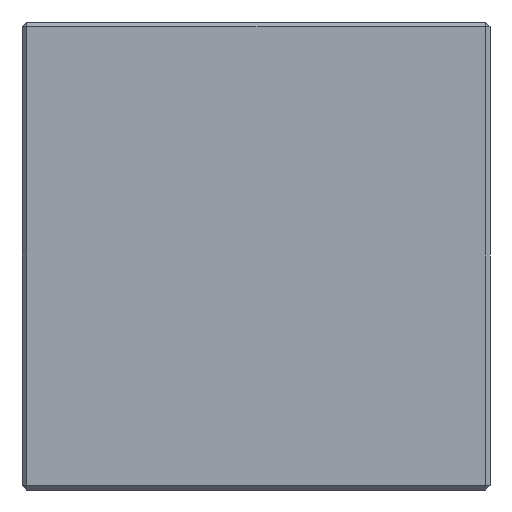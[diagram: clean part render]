
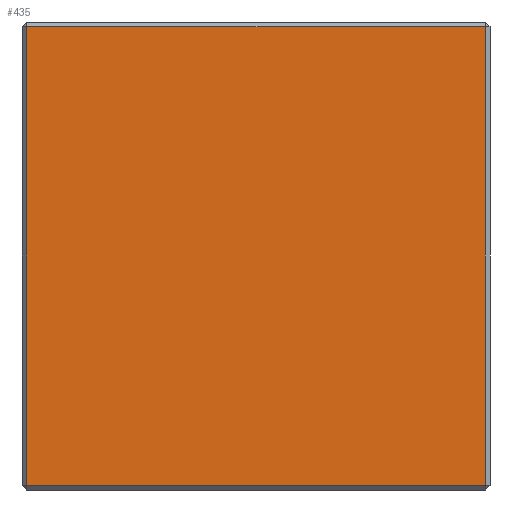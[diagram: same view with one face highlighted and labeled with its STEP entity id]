
A CAD part, left-side view. The second image highlights one B-rep face of the part: STEP entity #435.
In plain terms, the highlighted planar face has unit normal (-1, 0, 0).
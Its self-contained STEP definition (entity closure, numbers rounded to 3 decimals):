
#13 = DIRECTION ( 'NONE',  ( 0., 1., 0. ) ) ;
#25 = LINE ( 'NONE', #309, #36 ) ;
#36 = VECTOR ( 'NONE', #13, 1000. ) ;
#88 = ORIENTED_EDGE ( 'NONE', *, *, #705, .T. ) ;
#117 = CARTESIAN_POINT ( 'NONE',  ( -10.34, -10.14, 20.48 ) ) ;
#174 = VERTEX_POINT ( 'NONE', #669 ) ;
#235 = CARTESIAN_POINT ( 'NONE',  ( -10.34, -10.14, 0.2 ) ) ;
#268 = VERTEX_POINT ( 'NONE', #235 ) ;
#274 = AXIS2_PLACEMENT_3D ( 'NONE', #727, #376, #299 ) ;
#296 = EDGE_CURVE ( 'NONE', #174, #805, #701, .T. ) ;
#299 = DIRECTION ( 'NONE',  ( 0., 1., 0. ) ) ;
#300 = DIRECTION ( 'NONE',  ( 0., -1., 0. ) ) ;
#309 = CARTESIAN_POINT ( 'NONE',  ( -10.34, 10.34, 20.48 ) ) ;
#376 = DIRECTION ( 'NONE',  ( 1., 0., 0. ) ) ;
#396 = EDGE_CURVE ( 'NONE', #833, #174, #25, .T. ) ;
#405 = LINE ( 'NONE', #810, #886 ) ;
#435 = ADVANCED_FACE ( 'NONE', ( #511 ), #721, .F. ) ;
#463 = DIRECTION ( 'NONE',  ( 0., 0., 1. ) ) ;
#488 = CARTESIAN_POINT ( 'NONE',  ( -10.34, 10.14, 0.2 ) ) ;
#499 = EDGE_CURVE ( 'NONE', #268, #833, #405, .T. ) ;
#510 = EDGE_LOOP ( 'NONE', ( #88, #821, #648, #572 ) ) ;
#511 = FACE_OUTER_BOUND ( 'NONE', #510, .T. ) ;
#544 = DIRECTION ( 'NONE',  ( 0., 0., -1. ) ) ;
#572 = ORIENTED_EDGE ( 'NONE', *, *, #296, .T. ) ;
#648 = ORIENTED_EDGE ( 'NONE', *, *, #396, .T. ) ;
#669 = CARTESIAN_POINT ( 'NONE',  ( -10.34, 10.14, 20.48 ) ) ;
#701 = LINE ( 'NONE', #893, #751 ) ;
#705 = EDGE_CURVE ( 'NONE', #805, #268, #740, .T. ) ;
#721 = PLANE ( 'NONE',  #274 ) ;
#727 = CARTESIAN_POINT ( 'NONE',  ( -10.34, 10.34, 20.68 ) ) ;
#740 = LINE ( 'NONE', #809, #872 ) ;
#751 = VECTOR ( 'NONE', #544, 1000. ) ;
#805 = VERTEX_POINT ( 'NONE', #488 ) ;
#809 = CARTESIAN_POINT ( 'NONE',  ( -10.34, 10.34, 0.2 ) ) ;
#810 = CARTESIAN_POINT ( 'NONE',  ( -10.34, -10.14, 20.68 ) ) ;
#821 = ORIENTED_EDGE ( 'NONE', *, *, #499, .T. ) ;
#833 = VERTEX_POINT ( 'NONE', #117 ) ;
#872 = VECTOR ( 'NONE', #300, 1000. ) ;
#886 = VECTOR ( 'NONE', #463, 1000. ) ;
#893 = CARTESIAN_POINT ( 'NONE',  ( -10.34, 10.14, 20.68 ) ) ;
